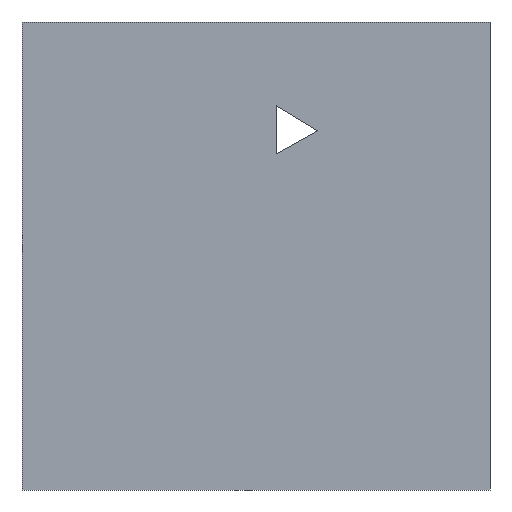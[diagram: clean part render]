
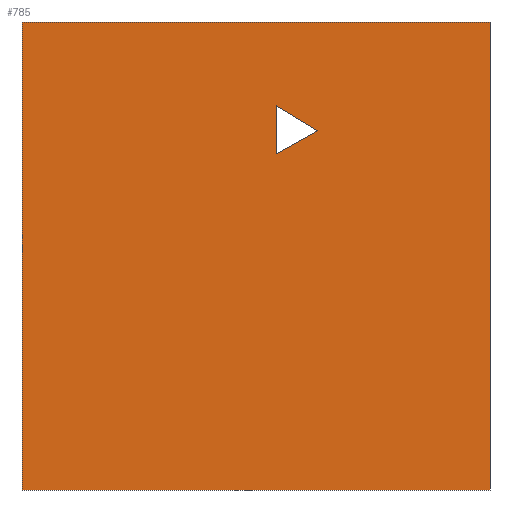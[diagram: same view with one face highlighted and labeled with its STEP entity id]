
A CAD part, front view. The second image highlights one B-rep face of the part: STEP entity #785.
In plain terms, the highlighted planar face has unit normal (0, -1, 0).
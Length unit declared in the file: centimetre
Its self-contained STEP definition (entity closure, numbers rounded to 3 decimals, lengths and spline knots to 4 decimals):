
#10 = EDGE_CURVE ( 'NONE', #896, #813, #370, .T. ) ;
#11 = VERTEX_POINT ( 'NONE', #912 ) ;
#23 = CARTESIAN_POINT ( 'NONE',  ( 544.5748, 0., 718.2197 ) ) ;
#50 = VECTOR ( 'NONE', #753, 100. ) ;
#62 = ORIENTED_EDGE ( 'NONE', *, *, #299, .F. ) ;
#82 = ORIENTED_EDGE ( 'NONE', *, *, #881, .T. ) ;
#111 = ORIENTED_EDGE ( 'NONE', *, *, #420, .F. ) ;
#148 = ORIENTED_EDGE ( 'NONE', *, *, #476, .F. ) ;
#183 = DIRECTION ( 'NONE',  ( 0.872, 0., 0.489 ) ) ;
#208 = CARTESIAN_POINT ( 'NONE',  ( 632.2364, 0., 767.3545 ) ) ;
#221 = DIRECTION ( 'NONE',  ( 0., 0., -1. ) ) ;
#271 = PLANE ( 'NONE',  #908 ) ;
#284 = CARTESIAN_POINT ( 'NONE',  ( 0., 0., 1000. ) ) ;
#288 = ORIENTED_EDGE ( 'NONE', *, *, #10, .F. ) ;
#292 = DIRECTION ( 'NONE',  ( 0., 0., -1. ) ) ;
#298 = ORIENTED_EDGE ( 'NONE', *, *, #368, .F. ) ;
#299 = EDGE_CURVE ( 'NONE', #520, #510, #667, .T. ) ;
#313 = EDGE_LOOP ( 'NONE', ( #148, #298, #62 ) ) ;
#333 = DIRECTION ( 'NONE',  ( 0., 0., -1. ) ) ;
#334 = CARTESIAN_POINT ( 'NONE',  ( 0., 0., 1000. ) ) ;
#340 = VECTOR ( 'NONE', #522, 100. ) ;
#356 = EDGE_CURVE ( 'NONE', #657, #813, #910, .T. ) ;
#368 = EDGE_CURVE ( 'NONE', #510, #11, #680, .T. ) ;
#370 = LINE ( 'NONE', #677, #872 ) ;
#375 = VECTOR ( 'NONE', #333, 100. ) ;
#392 = ORIENTED_EDGE ( 'NONE', *, *, #356, .T. ) ;
#398 = CARTESIAN_POINT ( 'NONE',  ( 1000., 0., 1000. ) ) ;
#416 = CARTESIAN_POINT ( 'NONE',  ( 0., 0., 0. ) ) ;
#420 = EDGE_CURVE ( 'NONE', #992, #896, #979, .T. ) ;
#466 = CARTESIAN_POINT ( 'NONE',  ( 0., 0., 0. ) ) ;
#476 = EDGE_CURVE ( 'NONE', #11, #520, #530, .T. ) ;
#504 = FACE_BOUND ( 'NONE', #313, .T. ) ;
#510 = VERTEX_POINT ( 'NONE', #854 ) ;
#520 = VERTEX_POINT ( 'NONE', #23 ) ;
#522 = DIRECTION ( 'NONE',  ( -0.853, 0., 0.521 ) ) ;
#530 = LINE ( 'NONE', #833, #679 ) ;
#533 = DIRECTION ( 'NONE',  ( 1., 0., 0. ) ) ;
#548 = CARTESIAN_POINT ( 'NONE',  ( 0., 0., 1000. ) ) ;
#576 = CARTESIAN_POINT ( 'NONE',  ( 544.5748, 0., 718.2197 ) ) ;
#604 = EDGE_LOOP ( 'NONE', ( #392, #288, #111, #82 ) ) ;
#657 = VERTEX_POINT ( 'NONE', #416 ) ;
#667 = LINE ( 'NONE', #576, #838 ) ;
#676 = CARTESIAN_POINT ( 'NONE',  ( 0., 0., 1000. ) ) ;
#677 = CARTESIAN_POINT ( 'NONE',  ( 1000., 0., 1000. ) ) ;
#679 = VECTOR ( 'NONE', #221, 100. ) ;
#680 = LINE ( 'NONE', #208, #340 ) ;
#753 = DIRECTION ( 'NONE',  ( 1., 0., 0. ) ) ;
#780 = CARTESIAN_POINT ( 'NONE',  ( 1000., 0., 0. ) ) ;
#785 = ADVANCED_FACE ( 'NONE', ( #504, #964 ), #271, .F. ) ;
#813 = VERTEX_POINT ( 'NONE', #780 ) ;
#819 = DIRECTION ( 'NONE',  ( 0., 1., 0. ) ) ;
#833 = CARTESIAN_POINT ( 'NONE',  ( 544.5748, 0., 820.9194 ) ) ;
#838 = VECTOR ( 'NONE', #183, 100. ) ;
#854 = CARTESIAN_POINT ( 'NONE',  ( 632.2364, 0., 767.3545 ) ) ;
#863 = LINE ( 'NONE', #548, #375 ) ;
#872 = VECTOR ( 'NONE', #292, 100. ) ;
#881 = EDGE_CURVE ( 'NONE', #992, #657, #863, .T. ) ;
#896 = VERTEX_POINT ( 'NONE', #398 ) ;
#902 = DIRECTION ( 'NONE',  ( 0., 0., 1. ) ) ;
#908 = AXIS2_PLACEMENT_3D ( 'NONE', #284, #819, #902 ) ;
#910 = LINE ( 'NONE', #466, #951 ) ;
#912 = CARTESIAN_POINT ( 'NONE',  ( 544.5748, 0., 820.9194 ) ) ;
#951 = VECTOR ( 'NONE', #533, 100. ) ;
#964 = FACE_OUTER_BOUND ( 'NONE', #604, .T. ) ;
#979 = LINE ( 'NONE', #676, #50 ) ;
#992 = VERTEX_POINT ( 'NONE', #334 ) ;
